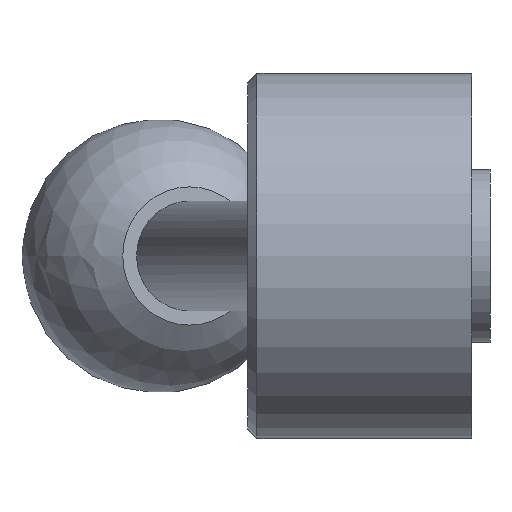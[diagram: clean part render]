
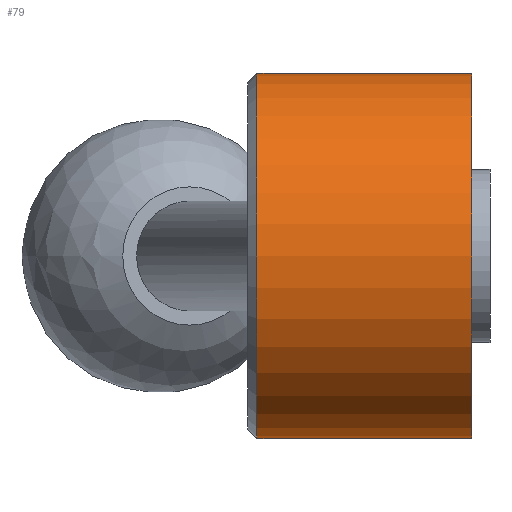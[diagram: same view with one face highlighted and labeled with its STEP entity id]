
A CAD part, left-side view. The second image highlights one B-rep face of the part: STEP entity #79.
In plain terms, the highlighted cylindrical face has radius 20 mm (diameter 40 mm), a full revolution.
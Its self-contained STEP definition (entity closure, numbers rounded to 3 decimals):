
#79 = ADVANCED_FACE( '', ( #103, #104, #105 ), #106, .T. );
#103 = FACE_OUTER_BOUND( '', #148, .T. );
#104 = FACE_BOUND( '', #149, .T. );
#105 = FACE_OUTER_BOUND( '', #150, .T. );
#106 = CYLINDRICAL_SURFACE( '', #151, 20. );
#148 = EDGE_LOOP( '', ( #201 ) );
#149 = EDGE_LOOP( '', ( #202 ) );
#150 = EDGE_LOOP( '', ( #203 ) );
#151 = AXIS2_PLACEMENT_3D( '', #204, #205, #206 );
#201 = ORIENTED_EDGE( '', *, *, #263, .F. );
#202 = ORIENTED_EDGE( '', *, *, #261, .F. );
#203 = ORIENTED_EDGE( '', *, *, #264, .T. );
#204 = CARTESIAN_POINT( '', ( 0., 0., 0. ) );
#205 = DIRECTION( '', ( 0., 1., 0. ) );
#206 = DIRECTION( '', ( 0., 0., -1. ) );
#261 = EDGE_CURVE( '', #280, #280, #281, .T. );
#263 = EDGE_CURVE( '', #284, #284, #285, .T. );
#264 = EDGE_CURVE( '', #286, #286, #287, .T. );
#280 = VERTEX_POINT( '', #308 );
#281 = B_SPLINE_CURVE_WITH_KNOTS( '', 3, ( #309, #310, #311, #312, #313, #314, #315, #316, #317, #318, #319, #320, #321, #322, #323, #324, #325, #326, #327, #328, #329, #330, #331, #332, #333, #334, #335, #336, #337, #338, #339, #340, #341, #342, #343, #344, #345, #346, #347, #348, #349, #350, #351, #352, #353, #354, #355, #356, #357, #358, #359, #360, #361, #362, #363, #364, #365, #366, #367, #368, #369, #370, #371, #372, #373, #374, #375, #376, #377, #378, #379, #380, #381, #382, #383, #384, #385, #386, #387, #388, #389, #390, #391, #392 ), .UNSPECIFIED., .T., .F., ( 2, 2, 2, 2, 2, 2, 2, 2, 2, 2, 2, 2, 2, 2, 2, 2, 2, 2, 2, 2, 2, 2, 2, 2, 2, 2, 2, 2, 2, 2, 2, 2, 2, 2, 2, 2, 2, 2, 2, 2, 2, 2, 2, 2 ), ( -0.001, 0., 0.001, 0.002, 0.002, 0.004, 0.004, 0.005, 0.006, 0.007, 0.008, 0.008, 0.009, 0.011, 0.012, 0.013, 0.014, 0.014, 0.015, 0.017, 0.018, 0.018, 0.019, 0.02, 0.021, 0.022, 0.024, 0.024, 0.025, 0.026, 0.027, 0.028, 0.028, 0.029, 0.03, 0.031, 0.032, 0.033, 0.034, 0.034, 0.035, 0.037, 0.038, 0.039 ), .UNSPECIFIED. );
#284 = VERTEX_POINT( '', #395 );
#285 = CIRCLE( '', #396, 20. );
#286 = VERTEX_POINT( '', #397 );
#287 = CIRCLE( '', #398, 20. );
#308 = CARTESIAN_POINT( '', ( 19.079, 16., 6. ) );
#309 = CARTESIAN_POINT( '', ( 19.079, 16.399, 6. ) );
#310 = CARTESIAN_POINT( '', ( 19.079, 15.601, 6. ) );
#311 = CARTESIAN_POINT( '', ( 19.091, 15.209, 5.961 ) );
#312 = CARTESIAN_POINT( '', ( 19.127, 14.632, 5.845 ) );
#313 = CARTESIAN_POINT( '', ( 19.141, 14.441, 5.797 ) );
#314 = CARTESIAN_POINT( '', ( 19.176, 14.063, 5.682 ) );
#315 = CARTESIAN_POINT( '', ( 19.196, 13.876, 5.615 ) );
#316 = CARTESIAN_POINT( '', ( 19.261, 13.332, 5.388 ) );
#317 = CARTESIAN_POINT( '', ( 19.312, 12.988, 5.204 ) );
#318 = CARTESIAN_POINT( '', ( 19.396, 12.5, 4.878 ) );
#319 = CARTESIAN_POINT( '', ( 19.426, 12.342, 4.76 ) );
#320 = CARTESIAN_POINT( '', ( 19.485, 12.039, 4.511 ) );
#321 = CARTESIAN_POINT( '', ( 19.515, 11.894, 4.38 ) );
#322 = CARTESIAN_POINT( '', ( 19.605, 11.482, 3.967 ) );
#323 = CARTESIAN_POINT( '', ( 19.664, 11.234, 3.667 ) );
#324 = CARTESIAN_POINT( '', ( 19.775, 10.796, 3.011 ) );
#325 = CARTESIAN_POINT( '', ( 19.825, 10.611, 2.666 ) );
#326 = CARTESIAN_POINT( '', ( 19.888, 10.386, 2.125 ) );
#327 = CARTESIAN_POINT( '', ( 19.906, 10.319, 1.941 ) );
#328 = CARTESIAN_POINT( '', ( 19.94, 10.204, 1.564 ) );
#329 = CARTESIAN_POINT( '', ( 19.954, 10.155, 1.37 ) );
#330 = CARTESIAN_POINT( '', ( 19.988, 10.039, 0.789 ) );
#331 = CARTESIAN_POINT( '', ( 20., 10., 0.398 ) );
#332 = CARTESIAN_POINT( '', ( 20., 10., -0.39 ) );
#333 = CARTESIAN_POINT( '', ( 19.988, 10.039, -0.79 ) );
#334 = CARTESIAN_POINT( '', ( 19.943, 10.193, -1.562 ) );
#335 = CARTESIAN_POINT( '', ( 19.909, 10.308, -1.937 ) );
#336 = CARTESIAN_POINT( '', ( 19.825, 10.611, -2.666 ) );
#337 = CARTESIAN_POINT( '', ( 19.774, 10.797, -3.014 ) );
#338 = CARTESIAN_POINT( '', ( 19.692, 11.122, -3.499 ) );
#339 = CARTESIAN_POINT( '', ( 19.664, 11.239, -3.656 ) );
#340 = CARTESIAN_POINT( '', ( 19.605, 11.487, -3.958 ) );
#341 = CARTESIAN_POINT( '', ( 19.575, 11.62, -4.105 ) );
#342 = CARTESIAN_POINT( '', ( 19.485, 12.035, -4.52 ) );
#343 = CARTESIAN_POINT( '', ( 19.425, 12.335, -4.767 ) );
#344 = CARTESIAN_POINT( '', ( 19.313, 12.983, -5.201 ) );
#345 = CARTESIAN_POINT( '', ( 19.261, 13.335, -5.39 ) );
#346 = CARTESIAN_POINT( '', ( 19.174, 14.058, -5.69 ) );
#347 = CARTESIAN_POINT( '', ( 19.139, 14.432, -5.805 ) );
#348 = CARTESIAN_POINT( '', ( 19.103, 15.013, -5.921 ) );
#349 = CARTESIAN_POINT( '', ( 19.094, 15.211, -5.951 ) );
#350 = CARTESIAN_POINT( '', ( 19.082, 15.604, -5.99 ) );
#351 = CARTESIAN_POINT( '', ( 19.079, 15.801, -6. ) );
#352 = CARTESIAN_POINT( '', ( 19.079, 16.39, -6. ) );
#353 = CARTESIAN_POINT( '', ( 19.091, 16.784, -5.962 ) );
#354 = CARTESIAN_POINT( '', ( 19.139, 17.564, -5.806 ) );
#355 = CARTESIAN_POINT( '', ( 19.174, 17.939, -5.692 ) );
#356 = CARTESIAN_POINT( '', ( 19.26, 18.662, -5.391 ) );
#357 = CARTESIAN_POINT( '', ( 19.313, 19.013, -5.203 ) );
#358 = CARTESIAN_POINT( '', ( 19.424, 19.662, -4.769 ) );
#359 = CARTESIAN_POINT( '', ( 19.484, 19.963, -4.522 ) );
#360 = CARTESIAN_POINT( '', ( 19.574, 20.379, -4.107 ) );
#361 = CARTESIAN_POINT( '', ( 19.605, 20.512, -3.96 ) );
#362 = CARTESIAN_POINT( '', ( 19.663, 20.76, -3.658 ) );
#363 = CARTESIAN_POINT( '', ( 19.692, 20.876, -3.502 ) );
#364 = CARTESIAN_POINT( '', ( 19.774, 21.201, -3.017 ) );
#365 = CARTESIAN_POINT( '', ( 19.824, 21.387, -2.672 ) );
#366 = CARTESIAN_POINT( '', ( 19.909, 21.691, -1.94 ) );
#367 = CARTESIAN_POINT( '', ( 19.942, 21.806, -1.565 ) );
#368 = CARTESIAN_POINT( '', ( 19.977, 21.921, -0.988 ) );
#369 = CARTESIAN_POINT( '', ( 19.985, 21.951, -0.794 ) );
#370 = CARTESIAN_POINT( '', ( 19.997, 21.99, -0.399 ) );
#371 = CARTESIAN_POINT( '', ( 20., 22., -0.199 ) );
#372 = CARTESIAN_POINT( '', ( 20., 22., 0.394 ) );
#373 = CARTESIAN_POINT( '', ( 19.988, 21.961, 0.785 ) );
#374 = CARTESIAN_POINT( '', ( 19.954, 21.846, 1.365 ) );
#375 = CARTESIAN_POINT( '', ( 19.94, 21.798, 1.558 ) );
#376 = CARTESIAN_POINT( '', ( 19.907, 21.682, 1.937 ) );
#377 = CARTESIAN_POINT( '', ( 19.888, 21.616, 2.122 ) );
#378 = CARTESIAN_POINT( '', ( 19.825, 21.39, 2.664 ) );
#379 = CARTESIAN_POINT( '', ( 19.775, 21.206, 3.009 ) );
#380 = CARTESIAN_POINT( '', ( 19.664, 20.767, 3.665 ) );
#381 = CARTESIAN_POINT( '', ( 19.605, 20.519, 3.966 ) );
#382 = CARTESIAN_POINT( '', ( 19.515, 20.107, 4.379 ) );
#383 = CARTESIAN_POINT( '', ( 19.485, 19.962, 4.51 ) );
#384 = CARTESIAN_POINT( '', ( 19.426, 19.659, 4.759 ) );
#385 = CARTESIAN_POINT( '', ( 19.397, 19.501, 4.877 ) );
#386 = CARTESIAN_POINT( '', ( 19.313, 19.013, 5.204 ) );
#387 = CARTESIAN_POINT( '', ( 19.261, 18.669, 5.388 ) );
#388 = CARTESIAN_POINT( '', ( 19.174, 17.946, 5.689 ) );
#389 = CARTESIAN_POINT( '', ( 19.139, 17.563, 5.806 ) );
#390 = CARTESIAN_POINT( '', ( 19.091, 16.791, 5.961 ) );
#391 = CARTESIAN_POINT( '', ( 19.079, 16.399, 6. ) );
#392 = CARTESIAN_POINT( '', ( 19.079, 15.601, 6. ) );
#395 = CARTESIAN_POINT( '', ( 0., 2., -20. ) );
#396 = AXIS2_PLACEMENT_3D( '', #426, #427, #428 );
#397 = CARTESIAN_POINT( '', ( 0., 25.5, -20. ) );
#398 = AXIS2_PLACEMENT_3D( '', #429, #430, #431 );
#426 = CARTESIAN_POINT( '', ( 0., 2., 0. ) );
#427 = DIRECTION( '', ( 0., -1., 0. ) );
#428 = DIRECTION( '', ( 0., 0., -1. ) );
#429 = CARTESIAN_POINT( '', ( 0., 25.5, 0. ) );
#430 = DIRECTION( '', ( 0., -1., 0. ) );
#431 = DIRECTION( '', ( 0., 0., -1. ) );
